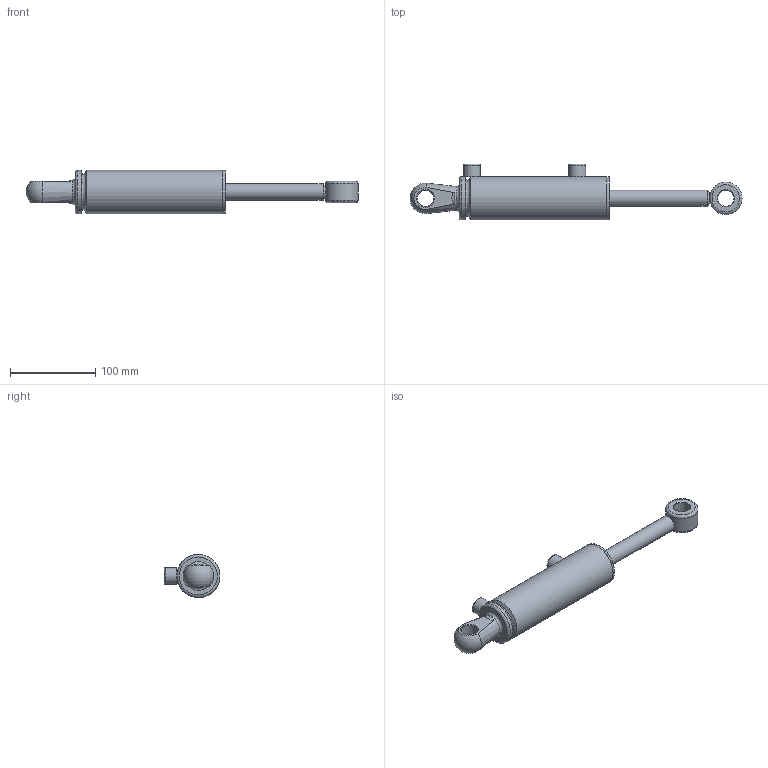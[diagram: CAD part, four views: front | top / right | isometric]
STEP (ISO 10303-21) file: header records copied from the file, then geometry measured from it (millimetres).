
FILE_DESCRIPTION(/* description */ ('Alibre Inc.'),/* implementation_level */ '2;1');
FILE_NAME(/* name */ 'export0',/* time_stamp */ '2016-08-16T09:44:33+12:00',/* author */ (''),/* organization */ (''),/* preprocessor_version */ 'ST-DEVELOPER v14',/* originating_system */ 'Alibre',/* authorisation */ '');
FILE_SCHEMA (('AUTOMOTIVE_DESIGN'));
Length unit declared in the file: centimetre
Bounding box: 390.28 x 65.8 x 50.8 mm (x, y, z)
Volume: 311735.1 mm3; surface area: 99158.6 mm2
Topology: 11 solids, 11 shells, 109 faces, 207 edges, 128 vertices
Faces by surface type: cylinder 38, plane 37, cone 21, torus 10, bspline 2, sphere 1
Full cylindrical faces by diameter (mm): 3 x2, 5.588 x1, 11.9 x2, 14.33 x2, 19.05 x3, 19.1 x2, 19.6 x1, 20 x2, 22.86 x1, 25.42 x1, 25.705 x1, 25.9 x1, 31.85 x1, 31.92 x1, 33.884 x1, 35.56 x1, 37.44 x3, 38 x3, 38.1 x2, 41.148 x1, 41.275 x2, 43.646 x1, 50.8 x3
Entity records: 3066 total; most frequent: CARTESIAN_POINT 989, DIRECTION 393, ORIENTED_EDGE 234, AXIS2_PLACEMENT_3D 218, EDGE_LOOP 204, FACE_BOUND 204, EDGE_CURVE 117, VERTEX_POINT 113
